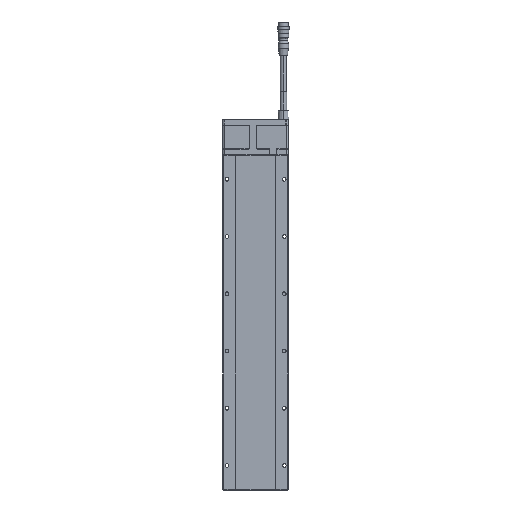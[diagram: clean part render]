
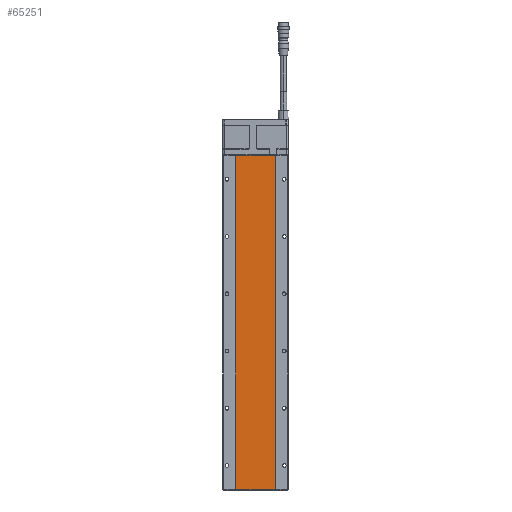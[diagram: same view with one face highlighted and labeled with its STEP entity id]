
A CAD part, front view. The second image highlights one B-rep face of the part: STEP entity #65251.
In plain terms, the highlighted planar face has unit normal (0, -1, 0).
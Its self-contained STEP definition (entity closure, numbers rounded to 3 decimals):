
#4609 = LINE ( 'NONE', #81378, #44454 ) ;
#4792 = EDGE_CURVE ( 'NONE', #45399, #87286, #100182, .T. ) ;
#5501 = CARTESIAN_POINT ( 'NONE',  ( -24.3, 0.5, 409.8 ) ) ;
#10640 = ORIENTED_EDGE ( 'NONE', *, *, #27600, .T. ) ;
#11665 = VECTOR ( 'NONE', #24079, 1000. ) ;
#11732 = DIRECTION ( 'NONE',  ( -1., 0., 0. ) ) ;
#11824 = DIRECTION ( 'NONE',  ( -1., 0., 0. ) ) ;
#17271 = EDGE_LOOP ( 'NONE', ( #63886, #100179, #90067, #10640 ) ) ;
#20026 = PLANE ( 'NONE',  #114197 ) ;
#21809 = CARTESIAN_POINT ( 'NONE',  ( -24.3, 0.5, 409.8 ) ) ;
#24079 = DIRECTION ( 'NONE',  ( 0., 0., -1. ) ) ;
#27600 = EDGE_CURVE ( 'NONE', #43419, #45399, #50722, .T. ) ;
#41776 = DIRECTION ( 'NONE',  ( 0., 0., 1. ) ) ;
#42504 = CARTESIAN_POINT ( 'NONE',  ( -24.3, 0.5, 0.2 ) ) ;
#43419 = VERTEX_POINT ( 'NONE', #67344 ) ;
#44454 = VECTOR ( 'NONE', #41776, 1000. ) ;
#45399 = VERTEX_POINT ( 'NONE', #5501 ) ;
#47599 = VECTOR ( 'NONE', #101267, 1000. ) ;
#50722 = LINE ( 'NONE', #21809, #88237 ) ;
#52249 = CARTESIAN_POINT ( 'NONE',  ( -24.3, 0.5, 0.2 ) ) ;
#58393 = CARTESIAN_POINT ( 'NONE',  ( -24.3, 0.5, 409.8 ) ) ;
#63886 = ORIENTED_EDGE ( 'NONE', *, *, #4792, .T. ) ;
#65251 = ADVANCED_FACE ( 'NONE', ( #115009 ), #20026, .F. ) ;
#67344 = CARTESIAN_POINT ( 'NONE',  ( 24.3, 0.5, 409.8 ) ) ;
#68437 = DIRECTION ( 'NONE',  ( 0., 1., 0. ) ) ;
#70657 = CARTESIAN_POINT ( 'NONE',  ( -24.3, 0.5, 0.2 ) ) ;
#72367 = LINE ( 'NONE', #52249, #47599 ) ;
#74837 = EDGE_CURVE ( 'NONE', #91012, #43419, #4609, .T. ) ;
#81378 = CARTESIAN_POINT ( 'NONE',  ( 24.3, 0.5, 0.2 ) ) ;
#87286 = VERTEX_POINT ( 'NONE', #42504 ) ;
#88237 = VECTOR ( 'NONE', #11732, 1000. ) ;
#90067 = ORIENTED_EDGE ( 'NONE', *, *, #74837, .T. ) ;
#91012 = VERTEX_POINT ( 'NONE', #112976 ) ;
#100179 = ORIENTED_EDGE ( 'NONE', *, *, #123595, .T. ) ;
#100182 = LINE ( 'NONE', #70657, #11665 ) ;
#101267 = DIRECTION ( 'NONE',  ( 1., 0., 0. ) ) ;
#112976 = CARTESIAN_POINT ( 'NONE',  ( 24.3, 0.5, 0.2 ) ) ;
#114197 = AXIS2_PLACEMENT_3D ( 'NONE', #58393, #68437, #11824 ) ;
#115009 = FACE_OUTER_BOUND ( 'NONE', #17271, .T. ) ;
#123595 = EDGE_CURVE ( 'NONE', #87286, #91012, #72367, .T. ) ;
